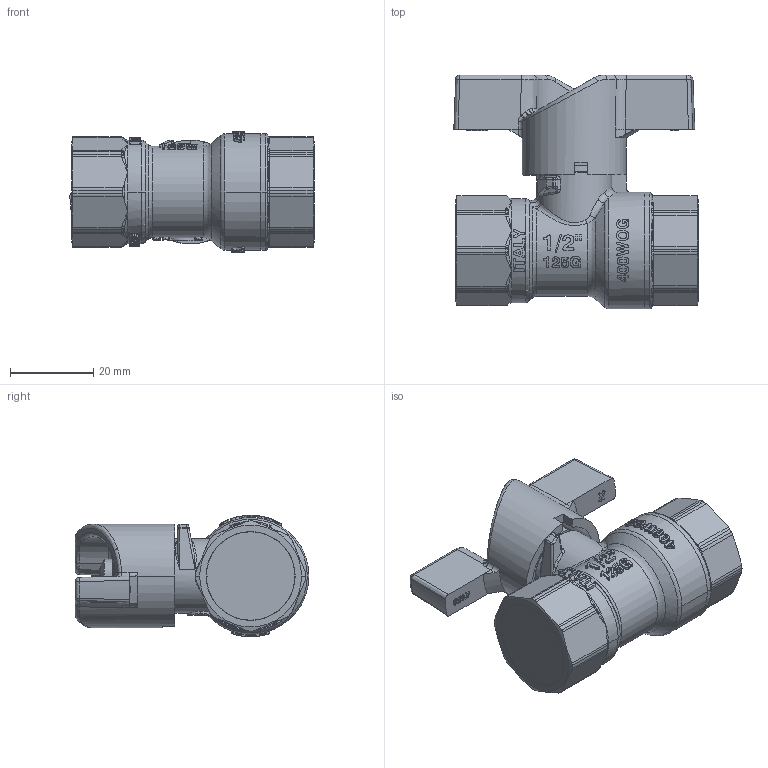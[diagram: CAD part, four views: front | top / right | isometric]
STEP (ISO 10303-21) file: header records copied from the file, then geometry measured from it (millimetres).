
FILE_DESCRIPTION((''),'2;1');
FILE_NAME('T205R_1-2_CGA-3_16_ASM','2022-05-20T09:39:51',('Sergio.Dandrea'),(''),'CREO PARAMETRIC BY PTC INC, 2021164','CREO PARAMETRIC BY PTC INC, 2021164','');
FILE_SCHEMA(('CONFIG_CONTROL_DESIGN'));
Length unit declared in the file: millimetre
Products named in the file (12): 13017; 87190; OR_105_6_5X1_45; ASTA_50-1-2_OR_ASM; 87191; 13018; SEDE_PTFE_F10; 77143; 12073; VITE_TESTA_CIL_PH_M4X7; AN_PTFE_SF_15; T205R_1-2_CGA-3_16_ASM
Assembly tree (13 placements, depth 3):
  T205R_1-2_CGA-3_16_ASM
    13017
    ASTA_50-1-2_OR_ASM
      87190
      OR_105_6_5X1_45  x2
    87191
    13018
    SEDE_PTFE_F10  x2
    77143
    12073
    VITE_TESTA_CIL_PH_M4X7
    AN_PTFE_SF_15
Bounding box: 58.78 x 56.2 x 29.2 mm (x, y, z)
Volume: 28703 mm3; surface area: 26625.2 mm2
Topology: 12 solids, 22 shells, 1899 faces, 5046 edges, 3238 vertices
Faces by surface type: extrusion 1021, plane 280, cylinder 237, bspline 142, cone 108, torus 79, sphere 16, revolution 16
Entity records: 73849 total; most frequent: CARTESIAN_POINT 31673, ORIENTED_EDGE 9942, DIRECTION 5852, EDGE_CURVE 4996, B_SPLINE_CURVE_WITH_KNOTS 3486, VERTEX_POINT 3233, VECTOR 2764, EDGE_LOOP 1966
